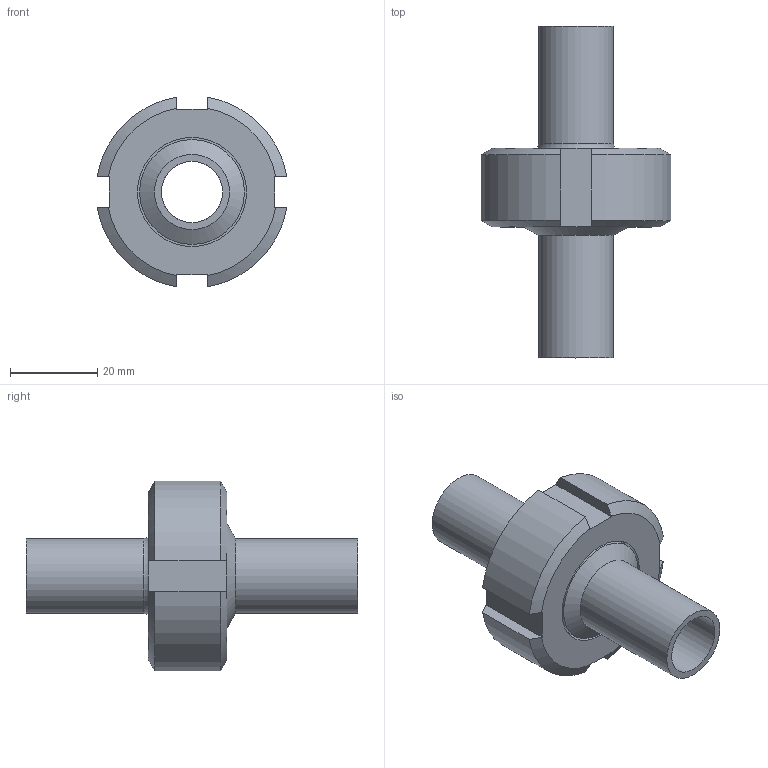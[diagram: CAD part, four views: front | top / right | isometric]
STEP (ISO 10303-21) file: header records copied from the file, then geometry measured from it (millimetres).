
FILE_DESCRIPTION(/* description */ ('Aseptik_Rohrverbindung_DIN 11864-1-A_17,2x1,6_L76'),/* implementation_level */ '2;1');
FILE_NAME(/* name */ 'L:\Normteile\N0024 - Rohrverbindungen\N0024_002 - DIN11864\N0024_002_001 - geschraubt\N0024_002_001\Step Marketing\DIN11864-1-A_17,2x1,6_L76.stp',/* time_stamp */ '2021-08-31T10:23:00+02:00',/* author */ ('Csasse'),/* organization */ ('Dockweiler AG'),/* preprocessor_version */ 'ST-DEVELOPER v18',/* originating_system */ 'Autodesk Inventor 2020',/* authorisation */ '');
FILE_SCHEMA (('AUTOMOTIVE_DESIGN { 1 0 10303 214 3 1 1 }'));
Length unit declared in the file: millimetre
Products named in the file (5): N0024_002_001_40; N0003_007_001_12; N0003_007_002_12; N0005_005_002_001_13; N0009_009_12
Assembly tree (4 placements, depth 2):
  N0024_002_001_40
    N0003_007_001_12
    N0003_007_002_12
    N0005_005_002_001_13
    N0009_009_12
Bounding box: 43.44 x 76 x 43.44 mm (x, y, z)
Volume: 28409 mm3; surface area: 17888.4 mm2
Topology: 4 solids, 4 shells, 66 faces, 192 edges, 138 vertices
Faces by surface type: plane 24, cone 16, cylinder 14, torus 12
Full cylindrical faces by diameter (mm): 14 x2, 17.2 x2, 24 x1, 25 x1, 27.9 x1, 28 x1, 30.825 x1, 34.318 x1
Entity records: 2538 total; most frequent: DIRECTION 444, CARTESIAN_POINT 437, ORIENTED_EDGE 384, AXIS2_PLACEMENT_3D 193, EDGE_CURVE 192, VERTEX_POINT 138, CIRCLE 118, EDGE_LOOP 78
